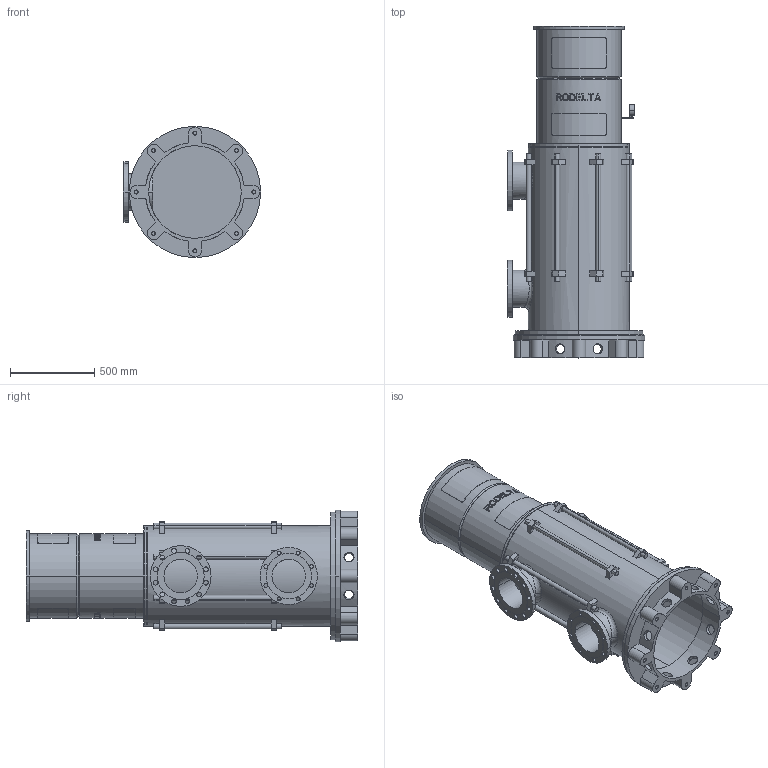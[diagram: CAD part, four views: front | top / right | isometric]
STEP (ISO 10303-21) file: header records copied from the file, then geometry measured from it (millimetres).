
FILE_DESCRIPTION((''),'2;1');
FILE_NAME('LS8_2TR_0GR_PN25','2025-10-24T13:15:25',('Lyritlocal'),(''),'CREO PARAMETRIC BY PTC INC, 2022014','CREO PARAMETRIC BY PTC INC, 2022014','');
FILE_SCHEMA(('CONFIG_CONTROL_DESIGN'));
Length unit declared in the file: millimetre
Products named in the file (1): LS8_2TR_0GR_PN25
Bounding box: 815 x 1972 x 780 mm (x, y, z)
Volume: 71197544.5 mm3; surface area: 9782473.2 mm2
Topology: 3 solids, 11 shells, 723 faces, 1878 edges, 1246 vertices
Faces by surface type: plane 440, cylinder 267, cone 12, bspline 4
Entity records: 23684 total; most frequent: CARTESIAN_POINT 6003, ORIENTED_EDGE 3724, DIRECTION 3488, EDGE_CURVE 1878, AXIS2_PLACEMENT_3D 1302, VERTEX_POINT 1246, EDGE_LOOP 888, VECTOR 884
